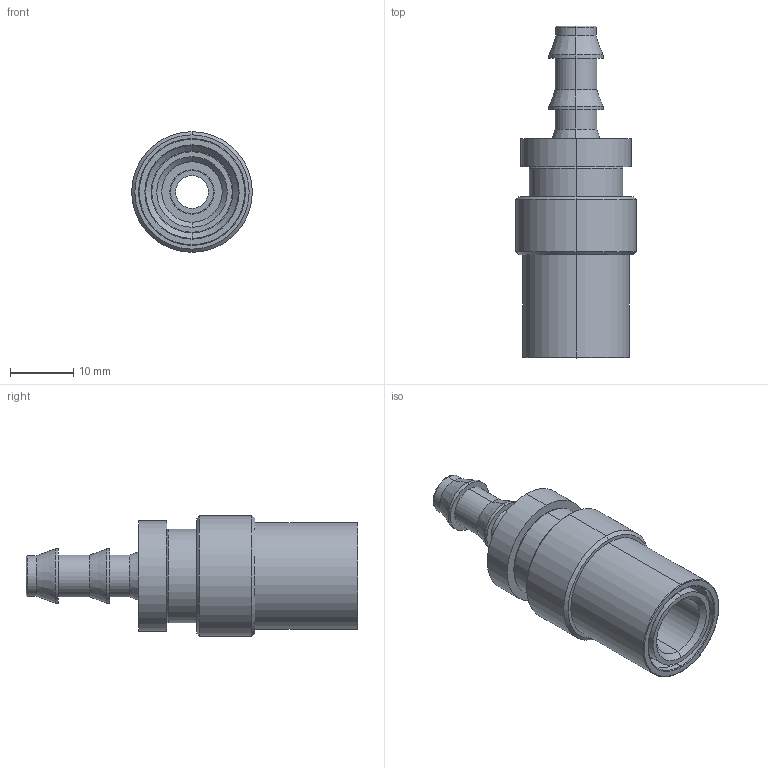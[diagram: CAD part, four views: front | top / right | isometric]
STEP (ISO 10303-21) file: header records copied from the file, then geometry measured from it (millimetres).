
FILE_DESCRIPTION (( 'STEP AP203' ), '1' );
FILE_NAME ('SC204-PL.step', '2022-02-03T09:23:14', ( 'Microsoft Corporation' ), ( 'MS' ), 'SwSTEP 2.0', 'SolidWorks 2019', '' );
FILE_SCHEMA (( 'CONFIG_CONTROL_DESIGN' ));
Length unit declared in the file: inch
Products named in the file (1): SC204-PL
Bounding box: 19.05 x 52.38 x 19.05 mm (x, y, z)
Volume: 6027.7 mm3; surface area: 7187.9 mm2
Topology: 4 solids, 4 shells, 104 faces, 208 edges, 122 vertices
Faces by surface type: cylinder 50, cone 20, plane 18, torus 16
Entity records: 2799 total; most frequent: DIRECTION 556, CARTESIAN_POINT 435, ORIENTED_EDGE 416, AXIS2_PLACEMENT_3D 243, EDGE_CURVE 208, CIRCLE 138, VERTEX_POINT 122, EDGE_LOOP 122
